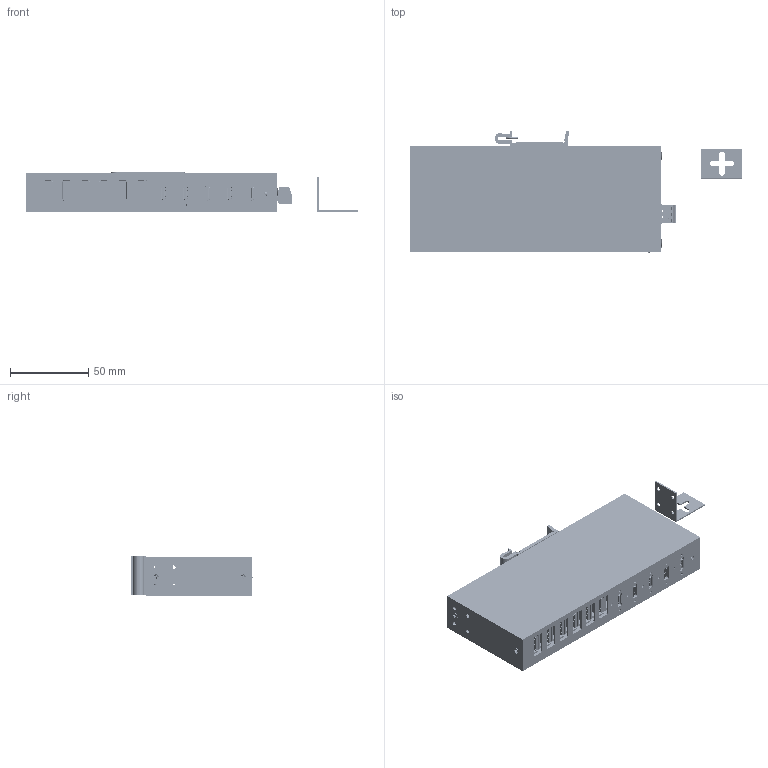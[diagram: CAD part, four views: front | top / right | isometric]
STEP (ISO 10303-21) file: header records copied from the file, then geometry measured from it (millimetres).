
FILE_DESCRIPTION(('FreeCAD Model'),'2;1');
FILE_NAME('Open CASCADE Shape Model','2024-06-11T13:17:18',(''),(''), 'Open CASCADE STEP processor 7.6','FreeCAD','Unknown');
FILE_SCHEMA(('AUTOMOTIVE_DESIGN { 1 0 10303 214 1 1 1 1 }'));
Length unit declared in the file: millimetre
Products named in the file (136): EX_12290HMVS_3D; Rackmount_Kit_12297HMS; Assem002; 6913613000xx_VIS; 6913613000xx_VIS001; 6913613000xx_VIS002; 6913613000xx_CAGE; 6913613000xx_CAGE001; 6913613000xx_CAGE002; 6913613000xx_PIN; 6913613000xx_PIN001; 6913613000xx_PIN002; 691361300003; 691361300003_CAPOT; Assem1; 6913053400xx_PIN; 6913053400xx_PIN001; 6913053400xx_PIN002; 691305340003; pcb; EX-12290_pcb; DCJ250-20-B-XX-A_revA1; DCJ250-20_S1_8_ASM; DCJ250-20_16253; DCJ250-20_20673; usb3_a-usb3_a-e_#001; LED_SOLID003#002; LED_SOLID003#001; usb3_a-usb3_a-e_#002; usb3_a-usb3_a-e_#003; usb3_a-usb3_a-e_#004; usb3_a-usb3_a-e_#005; usb3_a-usb3_a-e_#006; schraube_iso_7045-m2x5-4_8-h#001; schraube_iso_7045-m2x5-4_8-h#002; schraube_iso_7045-m2x5-4_8-h#003; schraube_iso_7045-m2x5-4_8-h#004; schraube_iso_7045-m2x5-4_8-h#005; schraube_iso_7045-m2x5-4_8-h#006; xb-usb-typec-24pin_002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
Assembly tree (135 placements, depth 4):
  EX_12290HMVS_3D
    Rackmount_Kit_12297HMS
    Assem002
      6913613000xx_VIS
      6913613000xx_VIS001
      6913613000xx_VIS002
      6913613000xx_CAGE
      6913613000xx_CAGE001
      6913613000xx_CAGE002
      6913613000xx_PIN
      6913613000xx_PIN001
      6913613000xx_PIN002
      691361300003
      691361300003_CAPOT
    Assem1
      6913053400xx_PIN
      6913053400xx_PIN001
      6913053400xx_PIN002
      691305340003
    pcb
    EX-12290_pcb
    DCJ250-20-B-XX-A_revA1
      DCJ250-20_S1_8_ASM
        DCJ250-20_16253
        DCJ250-20_20673
    usb3_a-usb3_a-e_#001
    LED_SOLID003#002
    LED_SOLID003#001
    usb3_a-usb3_a-e_#002
    usb3_a-usb3_a-e_#003
    usb3_a-usb3_a-e_#004
    usb3_a-usb3_a-e_#005
    usb3_a-usb3_a-e_#006
    schraube_iso_7045-m2x5-4_8-h#001
    schraube_iso_7045-m2x5-4_8-h#002
    schraube_iso_7045-m2x5-4_8-h#003
    schraube_iso_7045-m2x5-4_8-h#004
    schraube_iso_7045-m2x5-4_8-h#005
    schraube_iso_7045-m2x5-4_8-h#006
    xb-usb-typec-24pin_002
      SOLID017
      SOLID018
      SOLID019
      SOLID020
      SOLID021
      SOLID022
      SOLID023
      SOLID024
      SOLID025
      SOLID026
      SOLID027
      SOLID028
      SOLID029
      SOLID030
      SOLID031
      SOLID032
      SOLID033
    xb-usb-typec-24pin_003
      SOLID034
      SOLID035
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Bounding box: 212.2 x 77.52 x 25.2 mm (x, y, z)
Volume: 79964.2 mm3; surface area: 145545.8 mm2
Topology: 127 solids, 130 shells, 26996 faces, 77006 edges, 50141 vertices
Faces by surface type: plane 21218, cylinder 4334, cone 913, bspline 178, torus 174, extrusion 165, sphere 14
Full cylindrical faces by diameter (mm): 1 x2, 1.35 x3, 1.598 x3, 1.6 x15, 1.8 x3, 1.9 x6, 2 x3, 2.459 x2, 2.5 x38, 2.6 x3, 2.7 x5, 2.9 x3, 3 x4, 3.4 x1, 4 x2, 5 x6, 5.5 x3, 6.7 x1
Entity records: 898198 total; most frequent: CARTESIAN_POINT 172252, ORIENTED_EDGE 153980, DIRECTION 138367, EDGE_CURVE 76990, VECTOR 65177, LINE 65012, VERTEX_POINT 50141, AXIS2_PLACEMENT_3D 36595
